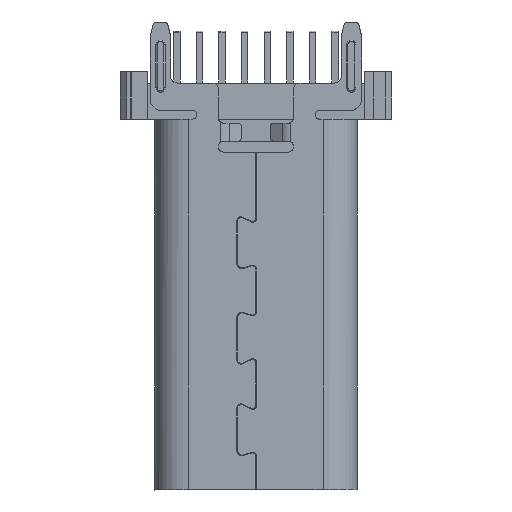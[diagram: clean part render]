
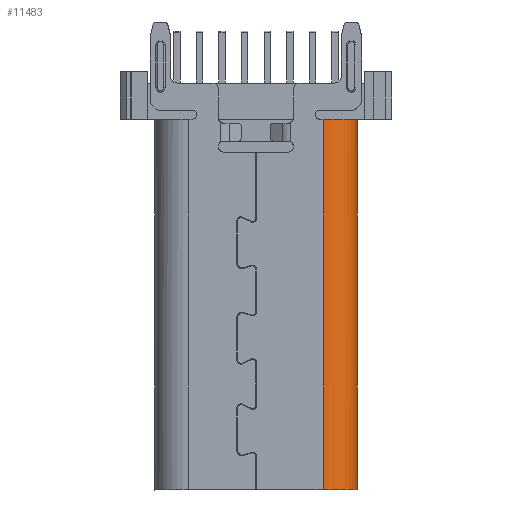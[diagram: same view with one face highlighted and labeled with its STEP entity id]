
A CAD part, front view. The second image highlights one B-rep face of the part: STEP entity #11483.
In plain terms, the highlighted cylindrical face has radius 1.5 mm (diameter 3 mm), a partial arc.
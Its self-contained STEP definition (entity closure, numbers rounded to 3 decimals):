
#265=CARTESIAN_POINT('',(8.665,-0.084,
-4.1));
#266=DIRECTION('',(0.,0.,-1.));
#267=DIRECTION('',(1.,-0.002,0.));
#268=AXIS2_PLACEMENT_3D('',#265,#266,#267);
#1526=DIRECTION('',(0.,0.,-1.));
#1527=VECTOR('',#1526,2.9);
#1528=CARTESIAN_POINT('',(8.662,-1.584,
-4.1));
#1529=LINE('',#1528,#1527);
#1731=DIRECTION('',(0.,0.,1.));
#1732=VECTOR('',#1731,1.);
#1733=CARTESIAN_POINT('',(8.662,-1.584,
-20.5));
#1734=LINE('',#1733,#1732);
#1735=DIRECTION('',(0.,0.,1.));
#1736=VECTOR('',#1735,8.);
#1737=CARTESIAN_POINT('',(8.662,-1.584,
-19.5));
#1738=LINE('',#1737,#1736);
#1739=DIRECTION('',(0.,0.,1.));
#1740=VECTOR('',#1739,4.5);
#1741=CARTESIAN_POINT('',(8.662,-1.584,
-11.5));
#1742=LINE('',#1741,#1740);
#1751=DIRECTION('',(0.,0.,1.));
#1752=VECTOR('',#1751,1.);
#1753=CARTESIAN_POINT('',(10.166,-0.088,
-20.5));
#1754=LINE('',#1753,#1752);
#1755=DIRECTION('',(0.,0.,1.));
#1756=VECTOR('',#1755,8.);
#1757=CARTESIAN_POINT('',(10.166,-0.088,
-19.5));
#1758=LINE('',#1757,#1756);
#1759=DIRECTION('',(0.,0.,1.));
#1760=VECTOR('',#1759,4.5);
#1761=CARTESIAN_POINT('',(10.166,-0.088,
-11.5));
#1762=LINE('',#1761,#1760);
#1763=DIRECTION('',(0.,0.,1.));
#1764=VECTOR('',#1763,2.9);
#1765=CARTESIAN_POINT('',(10.165,-0.088,
-7.));
#1766=LINE('',#1765,#1764);
#1807=CARTESIAN_POINT('',(8.666,-0.084,
-20.5));
#1808=DIRECTION('',(0.,0.,1.));
#1809=DIRECTION('',(-0.002,-1.,0.));
#1810=AXIS2_PLACEMENT_3D('',#1807,#1808,#1809);
#4527=CARTESIAN_POINT('',(8.665,-0.084,
-4.1));
#4528=DIRECTION('',(0.,0.,-1.));
#4529=DIRECTION('',(0.616,-0.788,0.));
#4530=AXIS2_PLACEMENT_3D('',#4527,#4528,#4529);
#7602=CARTESIAN_POINT('',(10.165,-0.088,
-4.1));
#7603=CARTESIAN_POINT('',(9.589,-1.266,
-4.1));
#7604=VERTEX_POINT('',#7602);
#7605=VERTEX_POINT('',#7603);
#7699=CARTESIAN_POINT('',(8.662,-1.584,
-4.1));
#7700=VERTEX_POINT('',#7699);
#8572=CARTESIAN_POINT('',(8.662,-1.584,
-20.5));
#8573=CARTESIAN_POINT('',(8.662,-1.584,
-19.5));
#8574=VERTEX_POINT('',#8572);
#8575=VERTEX_POINT('',#8573);
#8654=CARTESIAN_POINT('',(10.166,-0.088,
-20.5));
#8655=VERTEX_POINT('',#8654);
#9295=CARTESIAN_POINT('',(10.166,-0.088,
-19.5));
#9296=CARTESIAN_POINT('',(10.166,-0.088,
-11.5));
#9297=VERTEX_POINT('',#9295);
#9298=VERTEX_POINT('',#9296);
#9299=CARTESIAN_POINT('',(8.662,-1.584,
-11.5));
#9300=VERTEX_POINT('',#9299);
#9321=CARTESIAN_POINT('',(8.662,-1.584,
-7.));
#9322=VERTEX_POINT('',#9321);
#9333=CARTESIAN_POINT('',(10.165,-0.088,
-7.));
#9334=VERTEX_POINT('',#9333);
#11459=CARTESIAN_POINT('',(8.665,-0.084,
-7.058));
#11460=DIRECTION('',(0.,0.,1.));
#11461=DIRECTION('',(-0.002,-1.,0.));
#11462=AXIS2_PLACEMENT_3D('',#11459,#11460,#11461);
#11463=CYLINDRICAL_SURFACE('',#11462,1.5);
#11465=ORIENTED_EDGE('',*,*,#11464,.F.);
#11467=ORIENTED_EDGE('',*,*,#11466,.F.);
#11469=ORIENTED_EDGE('',*,*,#11468,.F.);
#11471=ORIENTED_EDGE('',*,*,#11470,.F.);
#11473=ORIENTED_EDGE('',*,*,#11472,.F.);
#11474=ORIENTED_EDGE('',*,*,#11278,.T.);
#11475=ORIENTED_EDGE('',*,*,#11276,.T.);
#11476=ORIENTED_EDGE('',*,*,#11274,.T.);
#11477=ORIENTED_EDGE('',*,*,#11272,.F.);
#11479=ORIENTED_EDGE('',*,*,#11478,.F.);
#11480=ORIENTED_EDGE('',*,*,#9872,.F.);
#11481=EDGE_LOOP('',(#11465,#11467,#11469,#11471,#11473,#11474,#11475,#11476,
#11477,#11479,#11480));
#11482=FACE_OUTER_BOUND('',#11481,.F.);
#269=CIRCLE('',#268,1.5);
#1811=CIRCLE('',#1810,1.5);
#4531=CIRCLE('',#4530,1.5);
#9872=EDGE_CURVE('',#7604,#7605,#269,.T.);
#11272=EDGE_CURVE('',#7700,#9322,#1529,.T.);
#11274=EDGE_CURVE('',#9300,#9322,#1742,.T.);
#11276=EDGE_CURVE('',#8575,#9300,#1738,.T.);
#11278=EDGE_CURVE('',#8574,#8575,#1734,.T.);
#11464=EDGE_CURVE('',#9334,#7604,#1766,.T.);
#11466=EDGE_CURVE('',#9298,#9334,#1762,.T.);
#11468=EDGE_CURVE('',#9297,#9298,#1758,.T.);
#11470=EDGE_CURVE('',#8655,#9297,#1754,.T.);
#11472=EDGE_CURVE('',#8574,#8655,#1811,.T.);
#11478=EDGE_CURVE('',#7605,#7700,#4531,.T.);
#11483=ADVANCED_FACE('',(#11482),#11463,.T.);
